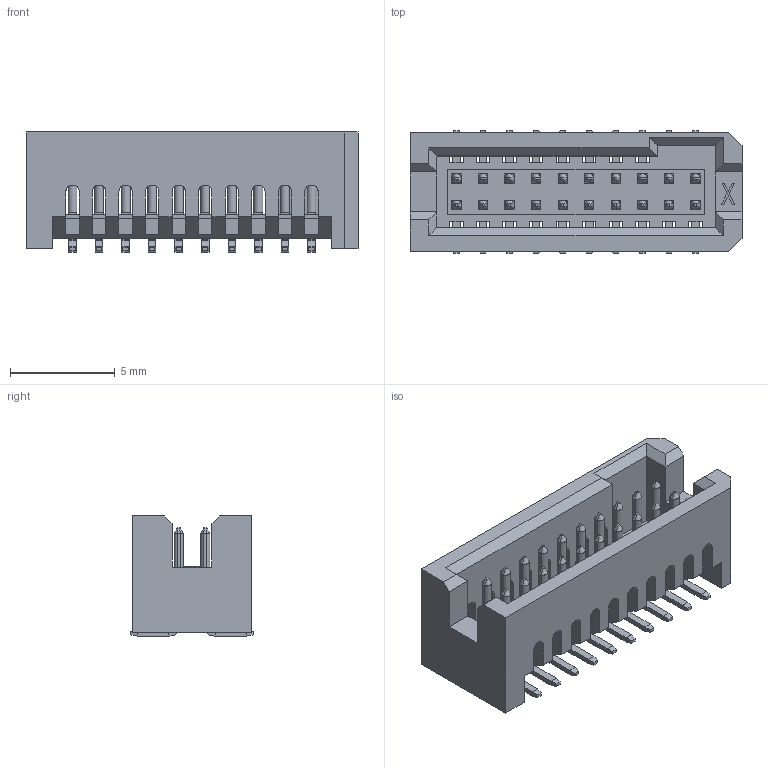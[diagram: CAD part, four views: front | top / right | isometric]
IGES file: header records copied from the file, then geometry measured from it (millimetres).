
Start section: ZWSOFT
Global section: file name: 3601-P020-A11MXXR01.igs; native system: ZW3D; preprocessor: 1.0; author: ZW3D; organization: ZWSOFT; date: 240413.162902; units: millimetre
Bounding box: 15.88 x 5.84 x 5.74 mm (x, y, z)
Surface area: 738.3 mm2 (no closed solid volume)
Topology: 0 solids, 0 shells, 982 faces, 5054 edges, 5052 vertices
Faces by surface type: bspline 982
